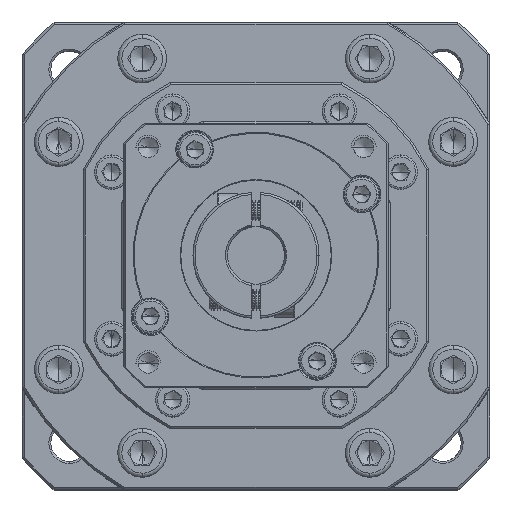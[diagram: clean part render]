
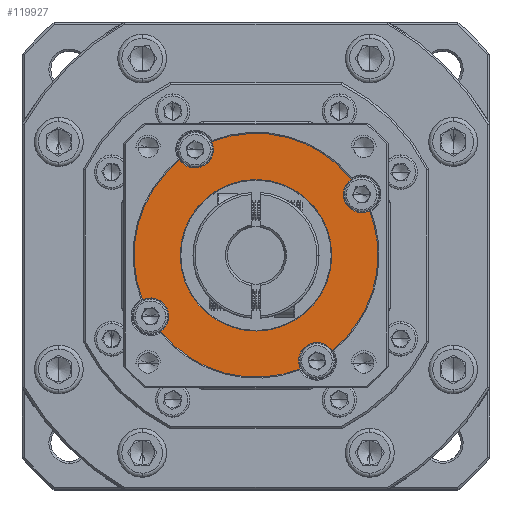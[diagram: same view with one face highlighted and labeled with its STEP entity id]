
A CAD part, top view. The second image highlights one B-rep face of the part: STEP entity #119927.
In plain terms, the highlighted planar face has unit normal (0, 0, 1).
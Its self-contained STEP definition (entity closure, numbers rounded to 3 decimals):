
#41 = AXIS2_PLACEMENT_3D ( 'NONE', #18634, #86724, #28449 ) ;
#2902 = CIRCLE ( 'NONE', #49182, 18.644 ) ;
#3008 = DIRECTION ( 'NONE',  ( 1., 0., 0. ) ) ;
#3392 = ORIENTED_EDGE ( 'NONE', *, *, #11392, .T. ) ;
#4683 = DIRECTION ( 'NONE',  ( 0., 0., 1. ) ) ;
#5604 = EDGE_CURVE ( 'NONE', #57120, #121427, #67065, .T. ) ;
#6202 = AXIS2_PLACEMENT_3D ( 'NONE', #79750, #21475, #89609 ) ;
#8427 = DIRECTION ( 'NONE',  ( 1., 0., 0. ) ) ;
#9681 = CIRCLE ( 'NONE', #104768, 4.5 ) ;
#11392 = EDGE_CURVE ( 'NONE', #118233, #75450, #2902, .T. ) ;
#12099 = EDGE_CURVE ( 'NONE', #57120, #107643, #9681, .T. ) ;
#12519 = CIRCLE ( 'NONE', #122000, 30. ) ;
#12611 = CARTESIAN_POINT ( 'NONE',  ( -88.894, 16.343, -3.698 ) ) ;
#14534 = AXIS2_PLACEMENT_3D ( 'NONE', #107062, #48706, #116919 ) ;
#17925 = CARTESIAN_POINT ( 'NONE',  ( -60.961, 27.289, -3.698 ) ) ;
#18244 = CIRCLE ( 'NONE', #56528, 30. ) ;
#18634 = CARTESIAN_POINT ( 'NONE',  ( -45.961, 1.308, -3.698 ) ) ;
#19514 = CARTESIAN_POINT ( 'NONE',  ( -34.981, 42.289, -3.698 ) ) ;
#19875 = AXIS2_PLACEMENT_3D ( 'NONE', #17925, #85995, #27701 ) ;
#21475 = DIRECTION ( 'NONE',  ( 0., 0., 1. ) ) ;
#22391 = ORIENTED_EDGE ( 'NONE', *, *, #85513, .F. ) ;
#23008 = FACE_OUTER_BOUND ( 'NONE', #60719, .T. ) ;
#23586 = EDGE_CURVE ( 'NONE', #32664, #47272, #70911, .T. ) ;
#23845 = DIRECTION ( 'NONE',  ( 0., 0., 1. ) ) ;
#24967 = ORIENTED_EDGE ( 'NONE', *, *, #70119, .T. ) ;
#25513 = EDGE_CURVE ( 'NONE', #121216, #46481, #111219, .T. ) ;
#27701 = DIRECTION ( 'NONE',  ( 1., 0., 0. ) ) ;
#28449 = DIRECTION ( 'NONE',  ( 1., 0., 0. ) ) ;
#29157 = ORIENTED_EDGE ( 'NONE', *, *, #34536, .F. ) ;
#29347 = DIRECTION ( 'NONE',  ( 1., 0., 0. ) ) ;
#30496 = ORIENTED_EDGE ( 'NONE', *, *, #12099, .F. ) ;
#31797 = DIRECTION ( 'NONE',  ( 0., 0., 1. ) ) ;
#32664 = VERTEX_POINT ( 'NONE', #102745 ) ;
#33359 = EDGE_LOOP ( 'NONE', ( #3392, #115146 ) ) ;
#33894 = EDGE_CURVE ( 'NONE', #32664, #46481, #104171, .T. ) ;
#34002 = DIRECTION ( 'NONE',  ( 0., 0., 1. ) ) ;
#34536 = EDGE_CURVE ( 'NONE', #87854, #121216, #49194, .T. ) ;
#35799 = AXIS2_PLACEMENT_3D ( 'NONE', #19514, #87656, #29347 ) ;
#39749 = DIRECTION ( 'NONE',  ( 0., 0., -1. ) ) ;
#40343 = ORIENTED_EDGE ( 'NONE', *, *, #102519, .F. ) ;
#42878 = AXIS2_PLACEMENT_3D ( 'NONE', #92282, #34002, #102045 ) ;
#43733 = CARTESIAN_POINT ( 'NONE',  ( -79.606, 27.289, -3.698 ) ) ;
#44831 = CARTESIAN_POINT ( 'NONE',  ( -30.961, 27.289, -3.698 ) ) ;
#46204 = AXIS2_PLACEMENT_3D ( 'NONE', #52758, #120988, #62497 ) ;
#46369 = CARTESIAN_POINT ( 'NONE',  ( -75.961, 53.269, -3.698 ) ) ;
#46481 = VERTEX_POINT ( 'NONE', #102510 ) ;
#47272 = VERTEX_POINT ( 'NONE', #115174 ) ;
#48139 = ORIENTED_EDGE ( 'NONE', *, *, #87645, .F. ) ;
#48706 = DIRECTION ( 'NONE',  ( 0., 0., 1. ) ) ;
#49182 = AXIS2_PLACEMENT_3D ( 'NONE', #98024, #39749, #107890 ) ;
#49194 = CIRCLE ( 'NONE', #6202, 4.5 ) ;
#52057 = VERTEX_POINT ( 'NONE', #63874 ) ;
#52758 = CARTESIAN_POINT ( 'NONE',  ( -60.961, 27.289, -3.698 ) ) ;
#53041 = DIRECTION ( 'NONE',  ( 0., 0., 1. ) ) ;
#53132 = CARTESIAN_POINT ( 'NONE',  ( -60.961, 27.289, -3.698 ) ) ;
#54230 = AXIS2_PLACEMENT_3D ( 'NONE', #82129, #23845, #91979 ) ;
#56132 = DIRECTION ( 'NONE',  ( 1., 0., 0. ) ) ;
#56137 = VERTEX_POINT ( 'NONE', #63797 ) ;
#56528 = AXIS2_PLACEMENT_3D ( 'NONE', #53132, #121373, #62873 ) ;
#57120 = VERTEX_POINT ( 'NONE', #100617 ) ;
#57167 = ORIENTED_EDGE ( 'NONE', *, *, #25513, .F. ) ;
#57848 = AXIS2_PLACEMENT_3D ( 'NONE', #125081, #66572, #8427 ) ;
#58937 = CARTESIAN_POINT ( 'NONE',  ( -50.461, 1.308, -3.698 ) ) ;
#60565 = CIRCLE ( 'NONE', #46204, 30. ) ;
#60719 = EDGE_LOOP ( 'NONE', ( #119822, #91449, #57167, #29157, #113012, #76006, #90159, #40343, #24967, #22391, #30496, #74828, #48139 ) ) ;
#61260 = DIRECTION ( 'NONE',  ( 0., 0., 1. ) ) ;
#61670 = CARTESIAN_POINT ( 'NONE',  ( -42.317, 27.289, -3.698 ) ) ;
#62497 = DIRECTION ( 'NONE',  ( 1., 0., 0. ) ) ;
#62563 = CARTESIAN_POINT ( 'NONE',  ( -39.481, 42.289, -3.698 ) ) ;
#62873 = DIRECTION ( 'NONE',  ( 1., 0., 0. ) ) ;
#62906 = CARTESIAN_POINT ( 'NONE',  ( -60.961, 27.289, -3.698 ) ) ;
#63797 = CARTESIAN_POINT ( 'NONE',  ( -71.906, 55.221, -3.698 ) ) ;
#63874 = CARTESIAN_POINT ( 'NONE',  ( -33.029, 38.234, -3.698 ) ) ;
#65065 = CIRCLE ( 'NONE', #35799, 4.5 ) ;
#65463 = AXIS2_PLACEMENT_3D ( 'NONE', #111450, #53041, #121291 ) ;
#65549 = CARTESIAN_POINT ( 'NONE',  ( -37.517, 46.006, -3.698 ) ) ;
#66196 = EDGE_CURVE ( 'NONE', #88249, #52057, #65065, .T. ) ;
#66572 = DIRECTION ( 'NONE',  ( 0., 0., -1. ) ) ;
#67065 = CIRCLE ( 'NONE', #19875, 30. ) ;
#67335 = CIRCLE ( 'NONE', #57848, 18.644 ) ;
#70119 = EDGE_CURVE ( 'NONE', #126166, #56137, #18244, .T. ) ;
#70911 = CIRCLE ( 'NONE', #42878, 4.5 ) ;
#71676 = FACE_BOUND ( 'NONE', #33359, .T. ) ;
#72710 = DIRECTION ( 'NONE',  ( 1., 0., 0. ) ) ;
#74828 = ORIENTED_EDGE ( 'NONE', *, *, #5604, .T. ) ;
#75269 = CIRCLE ( 'NONE', #54230, 4.5 ) ;
#75450 = VERTEX_POINT ( 'NONE', #43733 ) ;
#76006 = ORIENTED_EDGE ( 'NONE', *, *, #80259, .T. ) ;
#77698 = AXIS2_PLACEMENT_3D ( 'NONE', #62906, #4683, #72710 ) ;
#79750 = CARTESIAN_POINT ( 'NONE',  ( -45.961, 1.308, -3.698 ) ) ;
#80259 = EDGE_CURVE ( 'NONE', #107343, #52057, #12519, .T. ) ;
#82087 = PLANE ( 'NONE',  #77698 ) ;
#82129 = CARTESIAN_POINT ( 'NONE',  ( -34.981, 42.289, -3.698 ) ) ;
#83407 = EDGE_CURVE ( 'NONE', #75450, #118233, #67335, .T. ) ;
#85513 = EDGE_CURVE ( 'NONE', #107643, #56137, #119091, .T. ) ;
#85995 = DIRECTION ( 'NONE',  ( 0., 0., 1. ) ) ;
#86624 = EDGE_CURVE ( 'NONE', #87854, #107343, #60565, .T. ) ;
#86724 = DIRECTION ( 'NONE',  ( 0., 0., 1. ) ) ;
#87645 = EDGE_CURVE ( 'NONE', #47272, #121427, #113651, .T. ) ;
#87656 = DIRECTION ( 'NONE',  ( 0., 0., 1. ) ) ;
#87854 = VERTEX_POINT ( 'NONE', #116456 ) ;
#88249 = VERTEX_POINT ( 'NONE', #62563 ) ;
#89609 = DIRECTION ( 'NONE',  ( 1., 0., 0. ) ) ;
#90045 = AXIS2_PLACEMENT_3D ( 'NONE', #119756, #61260, #3008 ) ;
#90078 = CARTESIAN_POINT ( 'NONE',  ( -60.961, 27.289, -3.698 ) ) ;
#90159 = ORIENTED_EDGE ( 'NONE', *, *, #66196, .F. ) ;
#91449 = ORIENTED_EDGE ( 'NONE', *, *, #33894, .T. ) ;
#91979 = DIRECTION ( 'NONE',  ( 1., 0., 0. ) ) ;
#92282 = CARTESIAN_POINT ( 'NONE',  ( -86.942, 12.289, -3.698 ) ) ;
#97138 = CARTESIAN_POINT ( 'NONE',  ( -71.461, 53.269, -3.698 ) ) ;
#98024 = CARTESIAN_POINT ( 'NONE',  ( -60.961, 27.289, -3.698 ) ) ;
#99918 = DIRECTION ( 'NONE',  ( 1., 0., 0. ) ) ;
#100617 = CARTESIAN_POINT ( 'NONE',  ( -79.679, 50.733, -3.698 ) ) ;
#102045 = DIRECTION ( 'NONE',  ( 1., 0., 0. ) ) ;
#102510 = CARTESIAN_POINT ( 'NONE',  ( -50.016, -0.644, -3.698 ) ) ;
#102519 = EDGE_CURVE ( 'NONE', #126166, #88249, #75269, .T. ) ;
#102745 = CARTESIAN_POINT ( 'NONE',  ( -84.406, 8.571, -3.698 ) ) ;
#104171 = CIRCLE ( 'NONE', #90045, 30. ) ;
#104768 = AXIS2_PLACEMENT_3D ( 'NONE', #46369, #114587, #56132 ) ;
#107062 = CARTESIAN_POINT ( 'NONE',  ( -86.942, 12.289, -3.698 ) ) ;
#107343 = VERTEX_POINT ( 'NONE', #44831 ) ;
#107643 = VERTEX_POINT ( 'NONE', #97138 ) ;
#107890 = DIRECTION ( 'NONE',  ( 1., 0., 0. ) ) ;
#111219 = CIRCLE ( 'NONE', #41, 4.5 ) ;
#111450 = CARTESIAN_POINT ( 'NONE',  ( -75.961, 53.269, -3.698 ) ) ;
#113012 = ORIENTED_EDGE ( 'NONE', *, *, #86624, .T. ) ;
#113651 = CIRCLE ( 'NONE', #14534, 4.5 ) ;
#114587 = DIRECTION ( 'NONE',  ( 0., 0., 1. ) ) ;
#115146 = ORIENTED_EDGE ( 'NONE', *, *, #83407, .T. ) ;
#115174 = CARTESIAN_POINT ( 'NONE',  ( -82.442, 12.289, -3.698 ) ) ;
#116456 = CARTESIAN_POINT ( 'NONE',  ( -42.244, 3.844, -3.698 ) ) ;
#116919 = DIRECTION ( 'NONE',  ( 1., 0., 0. ) ) ;
#118233 = VERTEX_POINT ( 'NONE', #61670 ) ;
#119091 = CIRCLE ( 'NONE', #65463, 4.5 ) ;
#119756 = CARTESIAN_POINT ( 'NONE',  ( -60.961, 27.289, -3.698 ) ) ;
#119822 = ORIENTED_EDGE ( 'NONE', *, *, #23586, .F. ) ;
#119927 = ADVANCED_FACE ( 'NONE', ( #71676, #23008 ), #82087, .T. ) ;
#120988 = DIRECTION ( 'NONE',  ( 0., 0., 1. ) ) ;
#121216 = VERTEX_POINT ( 'NONE', #58937 ) ;
#121291 = DIRECTION ( 'NONE',  ( 1., 0., 0. ) ) ;
#121373 = DIRECTION ( 'NONE',  ( 0., 0., 1. ) ) ;
#121427 = VERTEX_POINT ( 'NONE', #12611 ) ;
#122000 = AXIS2_PLACEMENT_3D ( 'NONE', #90078, #31797, #99918 ) ;
#125081 = CARTESIAN_POINT ( 'NONE',  ( -60.961, 27.289, -3.698 ) ) ;
#126166 = VERTEX_POINT ( 'NONE', #65549 ) ;
